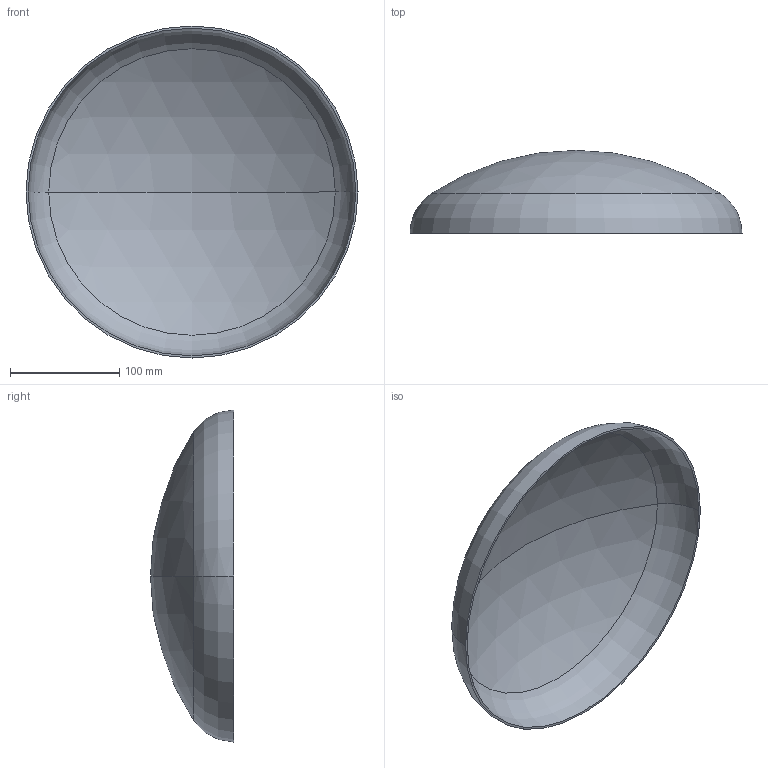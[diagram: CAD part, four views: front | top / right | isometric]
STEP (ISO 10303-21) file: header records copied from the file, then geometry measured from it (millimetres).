
FILE_DESCRIPTION (( 'STEP AP203' ), '1' );
FILE_NAME ('3D_R365_304x2_173371390.STEP', '2024-07-16T06:46:54', ( '' ), ( '' ), 'SwSTEP 2.0', 'SolidWorks 2024', '' );
FILE_SCHEMA (( 'CONFIG_CONTROL_DESIGN' ));
Length unit declared in the file: millimetre
Products named in the file (1): 3D_R365_304x2_173371390
Bounding box: 304 x 76 x 304 mm (x, y, z)
Volume: 195386.9 mm3; surface area: 197292.7 mm2
Topology: 1 solids, 1 shells, 13 faces, 24 edges, 14 vertices
Faces by surface type: sphere 4, torus 4, cylinder 4, plane 1
Entity records: 407 total; most frequent: DIRECTION 72, CARTESIAN_POINT 52, ORIENTED_EDGE 48, AXIS2_PLACEMENT_3D 34, EDGE_CURVE 24, CIRCLE 20, VERTEX_POINT 14, EDGE_LOOP 14
